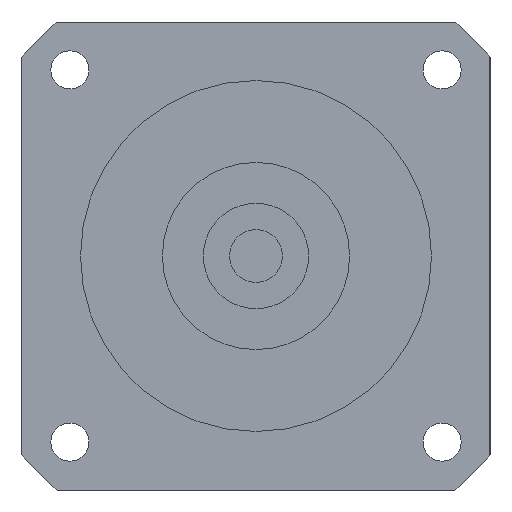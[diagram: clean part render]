
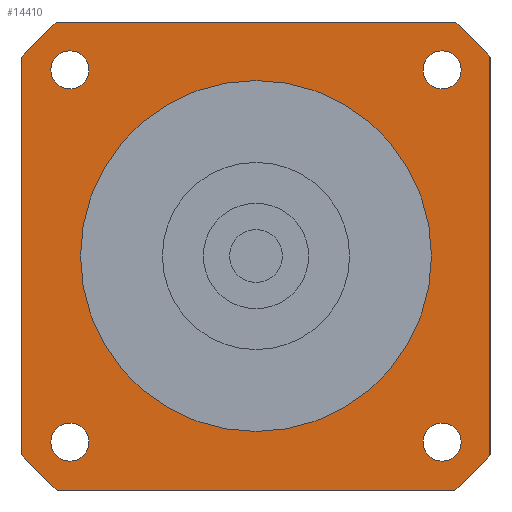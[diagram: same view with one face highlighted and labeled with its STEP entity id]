
A CAD part, left-side view. The second image highlights one B-rep face of the part: STEP entity #14410.
In plain terms, the highlighted planar face has unit normal (-1, 0, 0) as drawn and (0, 0, -1) by its records, which use the part's own axes.
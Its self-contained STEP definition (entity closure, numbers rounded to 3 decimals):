
#12740=CARTESIAN_POINT('',(-28.57,31.82,-42.2));
#12750=VERTEX_POINT('',#12740);
#12780=CARTESIAN_POINT('',(-31.82,31.82,-42.2));
#12790=DIRECTION('',(0.,0.,-1.));
#12800=DIRECTION('',(-1.,0.,0.));
#12810=AXIS2_PLACEMENT_3D('',#12780,#12790,#12800);
#12820=CIRCLE('',#12810,3.25);
#12830=CARTESIAN_POINT('',(-35.07,31.82,-42.2));
#12840=VERTEX_POINT('',#12830);
#12850=EDGE_CURVE('',#12840,#12750,#12820,.T.);
#12970=CARTESIAN_POINT('',(40.,40.,-42.2));
#12980=DIRECTION('',(0.,0.,-1.));
#12990=DIRECTION('',(1.,0.,0.));
#13000=AXIS2_PLACEMENT_3D('',#12970,#12980,#12990);
#13010=PLANE('',#13000);
#13020=CARTESIAN_POINT('',(-31.82,-31.82,-42.2));
#13030=DIRECTION('',(0.,0.,-1.));
#13040=DIRECTION('',(0.,-1.,0.));
#13050=AXIS2_PLACEMENT_3D('',#13020,#13030,#13040);
#13060=CIRCLE('',#13050,3.25);
#13070=CARTESIAN_POINT('',(-31.82,-35.07,-42.2));
#13080=VERTEX_POINT('',#13070);
#13090=CARTESIAN_POINT('',(-31.82,-28.57,-42.2));
#13100=VERTEX_POINT('',#13090);
#13110=EDGE_CURVE('',#13080,#13100,#13060,.T.);
#13120=ORIENTED_EDGE('',*,*,#13110,.F.);
#13130=EDGE_CURVE('',#13100,#13080,#13060,.T.);
#13140=ORIENTED_EDGE('',*,*,#13130,.F.);
#13150=EDGE_LOOP('',(#13140,#13120));
#13160=FACE_BOUND('',#13150,.T.);
#13170=ORIENTED_EDGE('',*,*,#12850,.F.);
#13180=EDGE_CURVE('',#12750,#12840,#12820,.T.);
#13190=ORIENTED_EDGE('',*,*,#13180,.F.);
#13200=EDGE_LOOP('',(#13190,#13170));
#13210=FACE_BOUND('',#13200,.T.);
#13220=CARTESIAN_POINT('',(31.82,31.82,-42.2));
#13230=DIRECTION('',(0.,0.,-1.));
#13240=DIRECTION('',(0.,1.,0.));
#13250=AXIS2_PLACEMENT_3D('',#13220,#13230,#13240);
#13260=CIRCLE('',#13250,3.25);
#13270=CARTESIAN_POINT('',(31.82,35.07,-42.2));
#13280=VERTEX_POINT('',#13270);
#13290=CARTESIAN_POINT('',(31.82,28.57,-42.2));
#13300=VERTEX_POINT('',#13290);
#13310=EDGE_CURVE('',#13280,#13300,#13260,.T.);
#13320=ORIENTED_EDGE('',*,*,#13310,.F.);
#13330=EDGE_CURVE('',#13300,#13280,#13260,.T.);
#13340=ORIENTED_EDGE('',*,*,#13330,.F.);
#13350=EDGE_LOOP('',(#13340,#13320));
#13360=FACE_BOUND('',#13350,.T.);
#13370=CARTESIAN_POINT('',(0.,0.,
-42.2));
#13380=DIRECTION('',(0.,0.,1.));
#13390=DIRECTION('',(0.,1.,0.));
#13400=AXIS2_PLACEMENT_3D('',#13370,#13380,#13390);
#13410=CIRCLE('',#13400,30.);
#13420=CARTESIAN_POINT('',(-30.,0.,-42.2));
#13430=VERTEX_POINT('',#13420);
#13440=CARTESIAN_POINT('',(30.,0.,-42.2));
#13450=VERTEX_POINT('',#13440);
#13460=EDGE_CURVE('',#13430,#13450,#13410,.T.);
#13470=ORIENTED_EDGE('',*,*,#13460,.T.);
#13480=CARTESIAN_POINT('',(0.,30.,-42.2));
#13490=VERTEX_POINT('',#13480);
#13500=EDGE_CURVE('',#13490,#13430,#13410,.T.);
#13510=ORIENTED_EDGE('',*,*,#13500,.T.);
#13520=EDGE_CURVE('',#13450,#13490,#13410,.T.);
#13530=ORIENTED_EDGE('',*,*,#13520,.T.);
#13540=EDGE_LOOP('',(#13530,#13510,#13470));
#13550=FACE_BOUND('',#13540,.T.);
#13560=CARTESIAN_POINT('',(-40.,40.,-42.2));
#13570=DIRECTION('',(1.,0.,0.));
#13580=VECTOR('',#13570,1000.);
#13590=LINE('',#13560,#13580);
#13600=CARTESIAN_POINT('',(-34.004,40.,-42.2));
#13610=VERTEX_POINT('',#13600);
#13620=CARTESIAN_POINT('',(34.004,40.,-42.2));
#13630=VERTEX_POINT('',#13620);
#13640=EDGE_CURVE('',#13610,#13630,#13590,.T.);
#13650=ORIENTED_EDGE('',*,*,#13640,.T.);
#13660=CARTESIAN_POINT('',(0.,0.,
-42.2));
#13670=DIRECTION('',(0.,0.,-1.));
#13680=DIRECTION('',(1.,0.,0.));
#13690=AXIS2_PLACEMENT_3D('',#13660,#13670,#13680);
#13700=CIRCLE('',#13690,52.5);
#13710=CARTESIAN_POINT('',(-40.,34.004,-42.2));
#13720=VERTEX_POINT('',#13710);
#13730=EDGE_CURVE('',#13720,#13610,#13700,.T.);
#13740=ORIENTED_EDGE('',*,*,#13730,.T.);
#13750=CARTESIAN_POINT('',(-40.,-40.,-42.2));
#13760=DIRECTION('',(0.,1.,0.));
#13770=VECTOR('',#13760,1000.);
#13780=LINE('',#13750,#13770);
#13790=CARTESIAN_POINT('',(-40.,-34.004,-42.2));
#13800=VERTEX_POINT('',#13790);
#13810=EDGE_CURVE('',#13800,#13720,#13780,.T.);
#13820=ORIENTED_EDGE('',*,*,#13810,.T.);
#13830=CARTESIAN_POINT('',(0.,0.,
-42.2));
#13840=DIRECTION('',(0.,0.,-1.));
#13850=DIRECTION('',(1.,0.,0.));
#13860=AXIS2_PLACEMENT_3D('',#13830,#13840,#13850);
#13870=CIRCLE('',#13860,52.5);
#13880=CARTESIAN_POINT('',(-34.004,-40.,-42.2));
#13890=VERTEX_POINT('',#13880);
#13900=EDGE_CURVE('',#13890,#13800,#13870,.T.);
#13910=ORIENTED_EDGE('',*,*,#13900,.T.);
#13920=CARTESIAN_POINT('',(40.,-40.,-42.2));
#13930=DIRECTION('',(-1.,0.,0.));
#13940=VECTOR('',#13930,1000.);
#13950=LINE('',#13920,#13940);
#13960=CARTESIAN_POINT('',(34.004,-40.,-42.2));
#13970=VERTEX_POINT('',#13960);
#13980=EDGE_CURVE('',#13970,#13890,#13950,.T.);
#13990=ORIENTED_EDGE('',*,*,#13980,.T.);
#14000=CARTESIAN_POINT('',(0.,0.,
-42.2));
#14010=DIRECTION('',(0.,0.,-1.));
#14020=DIRECTION('',(1.,0.,0.));
#14030=AXIS2_PLACEMENT_3D('',#14000,#14010,#14020);
#14040=CIRCLE('',#14030,52.5);
#14050=CARTESIAN_POINT('',(40.,-34.004,-42.2));
#14060=VERTEX_POINT('',#14050);
#14070=EDGE_CURVE('',#14060,#13970,#14040,.T.);
#14080=ORIENTED_EDGE('',*,*,#14070,.T.);
#14090=CARTESIAN_POINT('',(40.,40.,-42.2));
#14100=DIRECTION('',(0.,-1.,0.));
#14110=VECTOR('',#14100,1000.);
#14120=LINE('',#14090,#14110);
#14130=CARTESIAN_POINT('',(40.,34.004,-42.2));
#14140=VERTEX_POINT('',#14130);
#14150=EDGE_CURVE('',#14140,#14060,#14120,.T.);
#14160=ORIENTED_EDGE('',*,*,#14150,.T.);
#14170=CARTESIAN_POINT('',(0.,0.,
-42.2));
#14180=DIRECTION('',(0.,0.,-1.));
#14190=DIRECTION('',(1.,0.,0.));
#14200=AXIS2_PLACEMENT_3D('',#14170,#14180,#14190);
#14210=CIRCLE('',#14200,52.5);
#14220=EDGE_CURVE('',#13630,#14140,#14210,.T.);
#14230=ORIENTED_EDGE('',*,*,#14220,.T.);
#14240=EDGE_LOOP('',(#14230,#14160,#14080,#13990,#13910,#13820,#13740,
#13650));
#14250=FACE_OUTER_BOUND('',#14240,.T.);
#14260=CARTESIAN_POINT('',(31.82,-31.82,-42.2));
#14270=DIRECTION('',(0.,0.,-1.));
#14280=DIRECTION('',(1.,0.,0.));
#14290=AXIS2_PLACEMENT_3D('',#14260,#14270,#14280);
#14300=CIRCLE('',#14290,3.25);
#14310=CARTESIAN_POINT('',(35.07,-31.82,-42.2));
#14320=VERTEX_POINT('',#14310);
#14330=CARTESIAN_POINT('',(28.57,-31.82,-42.2));
#14340=VERTEX_POINT('',#14330);
#14350=EDGE_CURVE('',#14320,#14340,#14300,.T.);
#14360=ORIENTED_EDGE('',*,*,#14350,.F.);
#14370=EDGE_CURVE('',#14340,#14320,#14300,.T.);
#14380=ORIENTED_EDGE('',*,*,#14370,.F.);
#14390=EDGE_LOOP('',(#14380,#14360));
#14400=FACE_BOUND('',#14390,.T.);
#14410=ADVANCED_FACE('',(#13160,#13210,#13360,#13550,#14250,#14400),
#13010,.T.);
